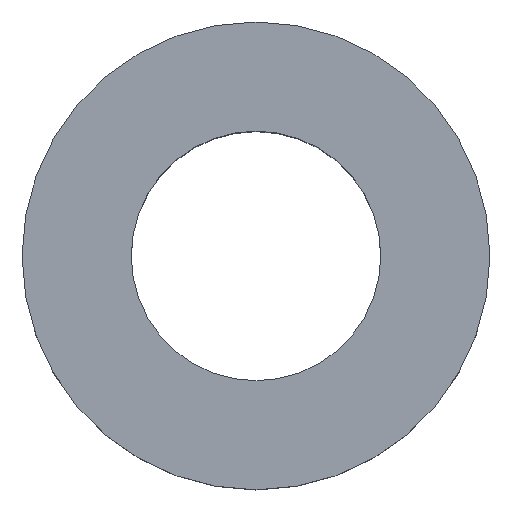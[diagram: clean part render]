
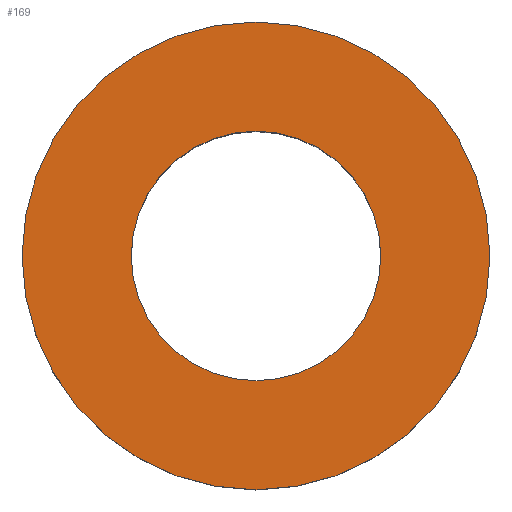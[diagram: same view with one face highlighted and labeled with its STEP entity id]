
A CAD part, top view. The second image highlights one B-rep face of the part: STEP entity #169.
In plain terms, the highlighted planar face has unit normal (0, 0, 1).
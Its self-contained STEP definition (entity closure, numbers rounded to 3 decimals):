
#169=ADVANCED_FACE('',(#193,#194),#190,.T.);
#190=PLANE('',#402);
#193=FACE_BOUND('',#199,.T.);
#194=FACE_BOUND('',#200,.T.);
#199=EDGE_LOOP('',(#223,#224));
#200=EDGE_LOOP('',(#225,#226));
#223=ORIENTED_EDGE('',*,*,#331,.T.);
#224=ORIENTED_EDGE('',*,*,#332,.T.);
#225=ORIENTED_EDGE('',*,*,#333,.F.);
#226=ORIENTED_EDGE('',*,*,#334,.F.);
#307=VERTEX_POINT('',#555);
#308=VERTEX_POINT('',#556);
#309=VERTEX_POINT('',#559);
#310=VERTEX_POINT('',#560);
#331=EDGE_CURVE('',#307,#308,#373,.T.);
#332=EDGE_CURVE('',#308,#307,#374,.T.);
#333=EDGE_CURVE('',#309,#310,#375,.T.);
#334=EDGE_CURVE('',#310,#309,#376,.T.);
#373=CIRCLE('',#398,7.5);
#374=CIRCLE('',#399,7.5);
#375=CIRCLE('',#400,4.);
#376=CIRCLE('',#401,4.);
#398=AXIS2_PLACEMENT_3D('',#554,#445,#446);
#399=AXIS2_PLACEMENT_3D('',#557,#447,#448);
#400=AXIS2_PLACEMENT_3D('',#558,#449,#450);
#401=AXIS2_PLACEMENT_3D('',#561,#451,#452);
#402=AXIS2_PLACEMENT_3D('',#562,#453,#454);
#445=DIRECTION('',(0.,0.,1.));
#446=DIRECTION('',(0.,1.,0.));
#447=DIRECTION('',(0.,0.,1.));
#448=DIRECTION('',(0.,-1.,0.));
#449=DIRECTION('',(0.,0.,1.));
#450=DIRECTION('',(0.,-1.,0.));
#451=DIRECTION('',(0.,0.,1.));
#452=DIRECTION('',(0.,1.,0.));
#453=DIRECTION('',(0.,0.,1.));
#454=DIRECTION('',(0.,1.,0.));
#554=CARTESIAN_POINT('',(0.,0.,3.));
#555=CARTESIAN_POINT('',(-7.5,0.,3.));
#556=CARTESIAN_POINT('',(7.5,0.,3.));
#557=CARTESIAN_POINT('',(0.,0.,3.));
#558=CARTESIAN_POINT('',(0.,0.,3.));
#559=CARTESIAN_POINT('',(4.,0.,3.));
#560=CARTESIAN_POINT('',(-4.,0.,3.));
#561=CARTESIAN_POINT('',(0.,0.,3.));
#562=CARTESIAN_POINT('',(0.,0.,3.));
